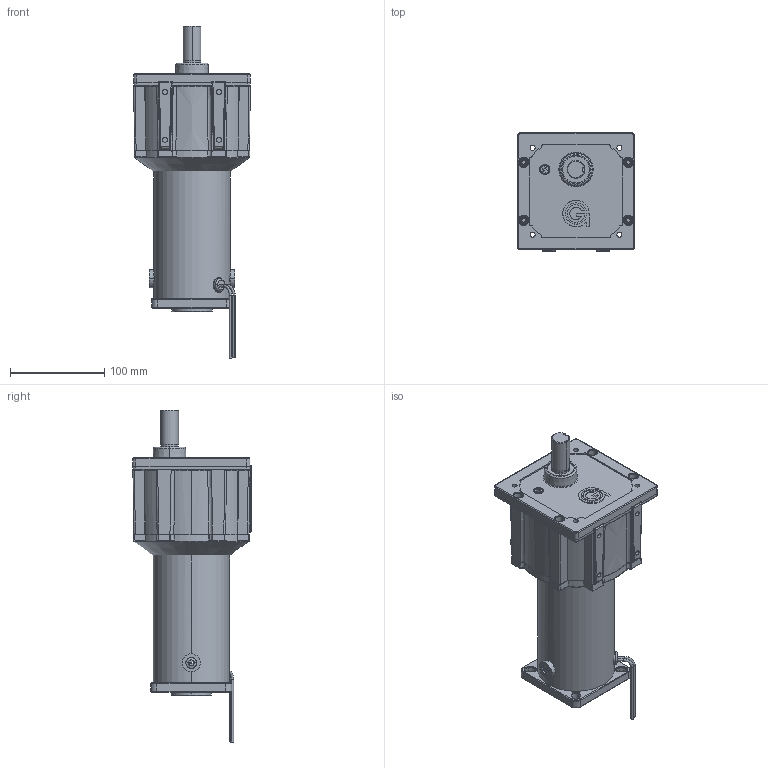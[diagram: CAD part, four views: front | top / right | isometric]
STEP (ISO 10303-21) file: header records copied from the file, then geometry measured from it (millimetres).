
FILE_DESCRIPTION (( 'STEP AP203' ), '1' );
FILE_NAME ('OUTLINE PM8014HV-PS2300.STEP', '2006-11-15T21:20:41', ( 'Groschopp' ), ( 'Groschopp' ), 'SwSTEP 2.0', 'SolidWorks 2007', '' );
FILE_SCHEMA (( 'CONFIG_CONTROL_DESIGN' ));
Length unit declared in the file: inch
Products named in the file (1): OUTLINE PM8014HV-PS2300
Bounding box: 124.01 x 125.51 x 351.7 mm (x, y, z)
Surface area: 141139.9 mm2 (no closed solid volume)
Topology: 0 solids, 25 shells, 750 faces, 2077 edges, 1304 vertices
Faces by surface type: cylinder 253, plane 164, bspline 118, torus 114, cone 81, sphere 20
Entity records: 28029 total; most frequent: CARTESIAN_POINT 9747, DIRECTION 3871, ORIENTED_EDGE 3700, EDGE_CURVE 2061, AXIS2_PLACEMENT_3D 1590, VERTEX_POINT 1296, CIRCLE 957, EDGE_LOOP 815
